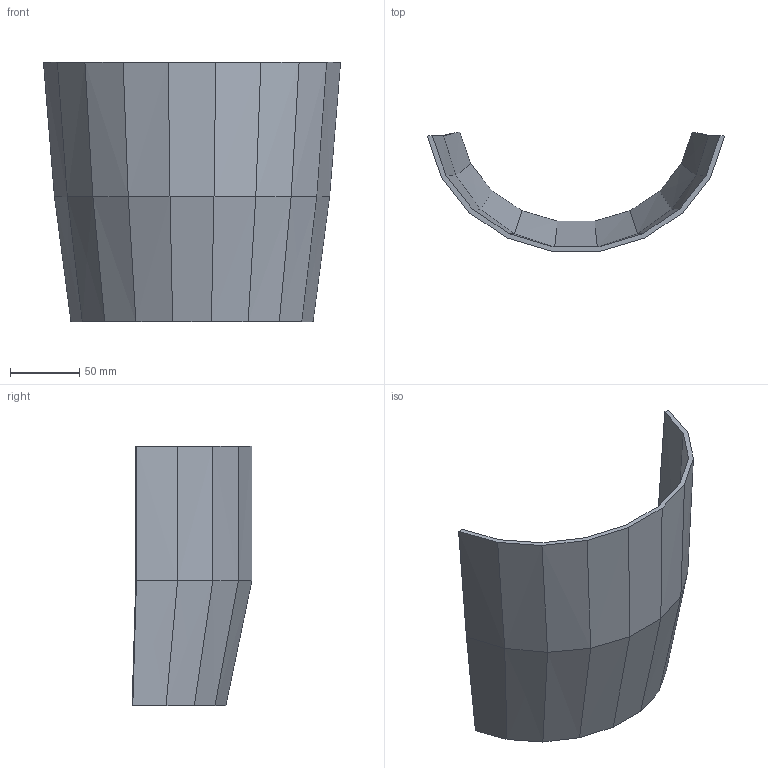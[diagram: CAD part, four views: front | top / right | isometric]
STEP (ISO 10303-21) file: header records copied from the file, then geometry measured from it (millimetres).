
FILE_DESCRIPTION(('Open CASCADE Model'),'2;1');
FILE_NAME('Open CASCADE Shape Model','2026-09-19T23:46:40',('Author'),( 'Open CASCADE'),'Open CASCADE STEP processor 7.9','Open CASCADE 7.9' ,'Unknown');
FILE_SCHEMA(('AUTOMOTIVE_DESIGN { 1 0 10303 214 1 1 1 1 }'));
Length unit declared in the file: millimetre
Products named in the file (1): Open CASCADE STEP translator 7.9 42
Bounding box: 213.9 x 86.26 x 187 mm (x, y, z)
Volume: 174692.4 mm3; surface area: 105019 mm2
Topology: 1 solids, 1 shells, 42 faces, 100 edges, 60 vertices
Faces by surface type: bspline 40, plane 2
Entity records: 2398 total; most frequent: CARTESIAN_POINT 599, DIRECTION 230, LINE 224, VECTOR 224, ORIENTED_EDGE 200, PCURVE 200, DEFINITIONAL_REPRESENTATION 200, EDGE_CURVE 100
